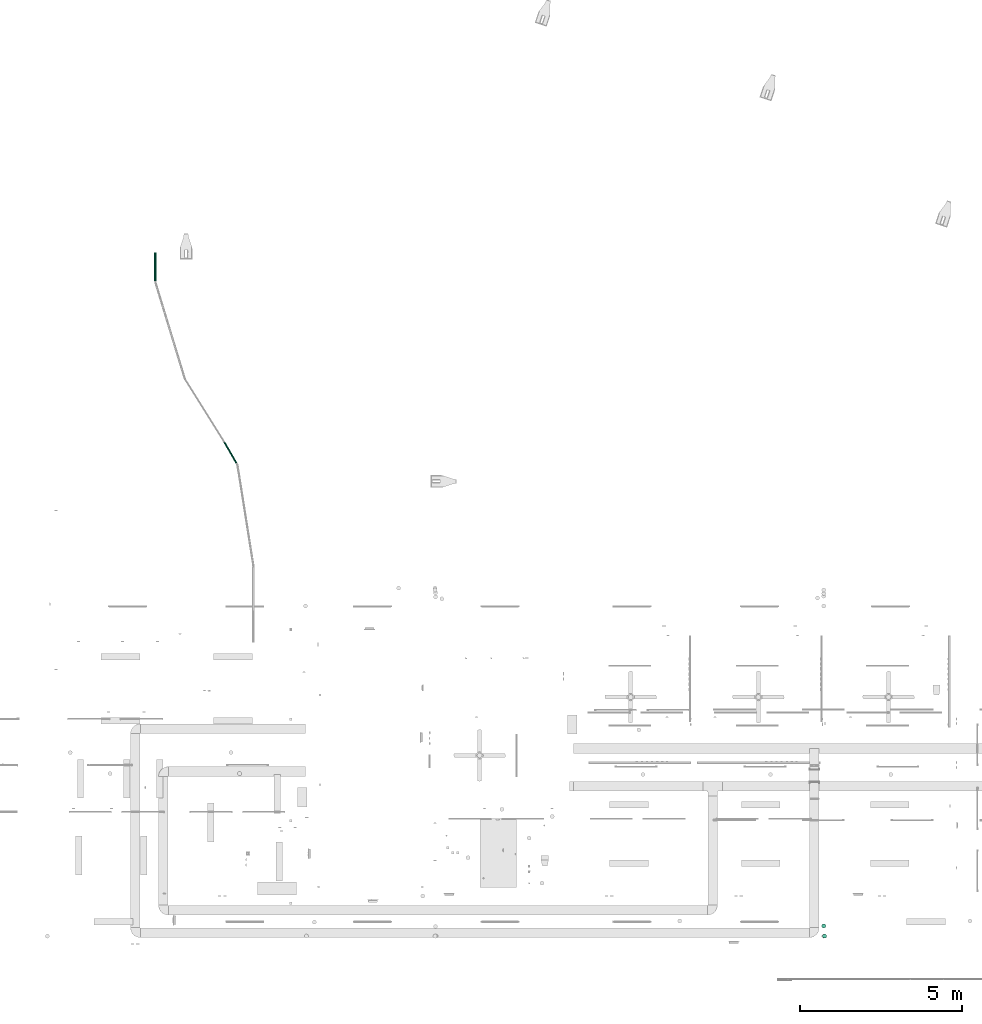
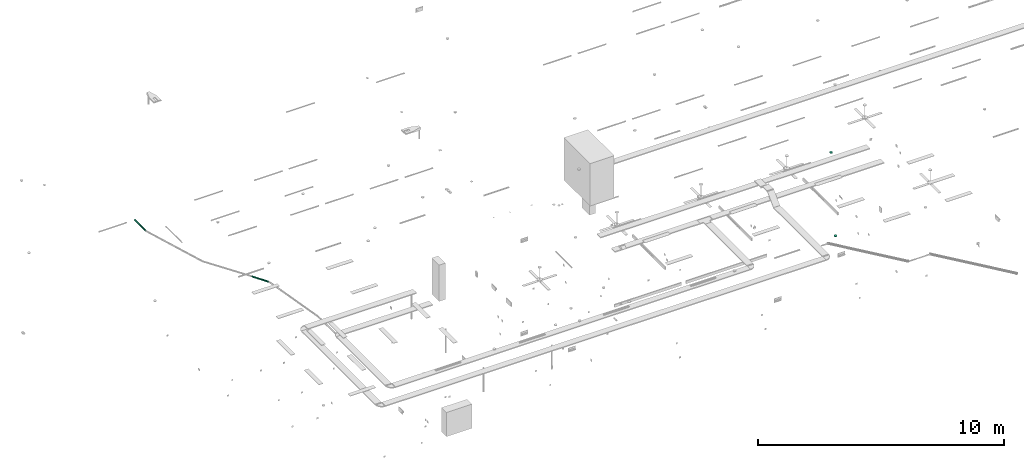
# One storey, part 123 of 153: 2 flow segments, 2 flow terminals.
"""IFC2X3 building model written with IfcOpenShell, lengths in metres."""

import ifcopenshell
import ifcopenshell.guid

model = None  # the IFC model being written
_history = None  # IfcOwnerHistory: only IFC2X3 demands one
_inside = {}  # id of a spatial element -> (the spatial element, [elements in it])
_under = {}  # id of a project, library or spatial element -> (it, [spatial elements below it])
_declared = {}  # id of a project -> (the project, [libraries it declares])
_typed = {}  # id of a type object -> (the type object, [elements of that type])
_made_of = {}  # id of a material, layer set ... -> (it, [elements and type objects made of it])


def new_model(schema):
    """Start an empty IFC model of exactly this schema.

    Asked for "IFC4X3", IfcOpenShell would pick the latest addendum, in which some entities
    have other attributes; the version numbers below select the first issue.
    IFC2X3 requires an IfcOwnerHistory on every rooted entity: one is made here for all.
    """
    global model, _history
    if schema == "IFC4X3":
        model = ifcopenshell.file(schema_version=(4, 3, 0, 0))
    else:
        model = ifcopenshell.file(schema=schema)
    _inside.clear()
    _under.clear()
    _declared.clear()
    _typed.clear()
    _made_of.clear()
    _history = None
    if model.schema == "IFC2X3":
        org = make("IfcOrganization", Name="unknown")
        user = make(
            "IfcPersonAndOrganization",
            ThePerson=make("IfcPerson", FamilyName="unknown"),
            TheOrganization=org,
        )
        app = make(
            "IfcApplication",
            ApplicationDeveloper=org,
            Version="unknown",
            ApplicationFullName="unknown",
            ApplicationIdentifier="unknown",
        )
        _history = make(
            "IfcOwnerHistory",
            OwningUser=user,
            OwningApplication=app,
            ChangeAction="ADDED",
            CreationDate=0,
        )
    return model


def make(cls, **values):
    """One entity of the class cls with the attributes given. An attribute that is None is left unset."""
    return model.create_entity(
        cls, **{name: value for name, value in values.items() if value is not None}
    )


def entity(cls, *values):
    """Any entity or typed value of the class cls, its attributes in the order of the schema. None: left unset."""
    e = model.create_entity(cls)
    for i, value in enumerate(values):
        if value is not None:
            e[i] = value
    return e


def rooted(cls, **values):
    """An entity with a GlobalId (a new one), such as an element, a storey or a relation."""
    return make(cls, GlobalId=ifcopenshell.guid.new(), OwnerHistory=_history, **values)


def si_unit(unit_type, name, prefix=None):
    """IfcSIUnit, for example si_unit("LENGTHUNIT", "METRE", prefix="MILLI")."""
    return make("IfcSIUnit", UnitType=unit_type, Prefix=prefix, Name=name)


def converted_unit(unit_type, name, factor, base, dimensions=None, offset=None):
    """IfcConversionBasedUnit, such as the inch: factor (a typed value) times the base unit."""
    return make(
        "IfcConversionBasedUnit"
        if offset is None
        else "IfcConversionBasedUnitWithOffset",
        ConversionOffset=offset,
        Dimensions=None
        if dimensions is None
        else entity("IfcDimensionalExponents", *dimensions),
        UnitType=unit_type,
        Name=name,
        ConversionFactor=make(
            "IfcMeasureWithUnit", ValueComponent=factor, UnitComponent=base
        ),
    )


def derived_unit(unit_type, elements):
    """IfcDerivedUnit: a product of units, each with its exponent."""
    return make(
        "IfcDerivedUnit",
        Elements=[
            make("IfcDerivedUnitElement", Unit=unit, Exponent=power)
            for unit, power in elements
        ],
        UnitType=unit_type,
    )


def assignment(units):
    """IfcUnitAssignment: the units of a project."""
    return None if units is None else make("IfcUnitAssignment", Units=units)


def point(xyz):
    """IfcCartesianPoint."""
    return None if xyz is None else make("IfcCartesianPoint", Coordinates=xyz)


def direction(xyz):
    """IfcDirection."""
    return None if xyz is None else make("IfcDirection", DirectionRatios=xyz)


def frame(location, z_axis=None, x_axis=None):
    """IfcAxis2Placement3D, a coordinate frame: its origin and axes. An axis left out is left unset."""
    return make(
        "IfcAxis2Placement3D",
        Location=point(location),
        Axis=direction(z_axis),
        RefDirection=direction(x_axis),
    )


def frame_2d(location, x_axis=None):
    """IfcAxis2Placement2D, a coordinate frame in the plane: its origin and x axis."""
    return make(
        "IfcAxis2Placement2D", Location=point(location), RefDirection=direction(x_axis)
    )


def origin():
    """The frame at (0, 0, 0) with its axes left unset."""
    return frame((0.0, 0.0, 0.0))


def origin_2d_with_axis():
    """The frame at (0, 0) in the plane with the x axis (1, 0) written out."""
    return frame_2d((0.0, 0.0), x_axis=(1.0, 0.0))


def place(relative_to, where):
    """IfcLocalPlacement: puts the frame where relative to a parent placement (None: the world)."""
    return make(
        "IfcLocalPlacement", PlacementRelTo=relative_to, RelativePlacement=where
    )


def context(
    kind, dimensions, precision=None, world=None, true_north=None, identifier=None
):
    """IfcGeometricRepresentationContext, for example the 3D "Model" context."""
    return make(
        "IfcGeometricRepresentationContext",
        ContextIdentifier=identifier,
        ContextType=kind,
        CoordinateSpaceDimension=dimensions,
        Precision=precision,
        WorldCoordinateSystem=world,
        TrueNorth=true_north,
    )


def subcontext(parent, identifier, kind, view, scale=None):
    """IfcGeometricRepresentationSubContext, for example "Body" below "Model"."""
    return make(
        "IfcGeometricRepresentationSubContext",
        ContextIdentifier=identifier,
        ContextType=kind,
        ParentContext=parent,
        TargetScale=scale,
        TargetView=view,
    )


def project(units=None, contexts=None):
    """IfcProject with its units and contexts."""
    return rooted(
        "IfcProject",
        Name="project",
        RepresentationContexts=contexts,
        UnitsInContext=assignment(units),
    )


def spatial(cls, under=None, at=None, **own):
    """A site, building, storey or space (cls), placed at a placement, below another one or the project."""
    s = rooted(cls, ObjectPlacement=at, **own)
    if under is not None:
        _under.setdefault(under.id(), (under, []))[1].append(s)
    return s


def profile(cls, at=None, kind="AREA", **sizes):
    """A parametric profile (cls). Its sizes go by their IFC names, for example OverallWidth=200.0."""
    return make(cls, ProfileType=kind, Position=at, **sizes)


def circle(**sizes):
    """IfcCircleProfileDef."""
    return profile("IfcCircleProfileDef", **sizes)


def extrude(swept, where, along, depth):
    """IfcExtrudedAreaSolid: the profile swept, set in the frame where, extruded along a direction by depth."""
    return make(
        "IfcExtrudedAreaSolid",
        SweptArea=swept,
        Position=where,
        ExtrudedDirection=direction(along),
        Depth=depth,
    )


def faces_of(points, faces, orient=None, outer=None):
    """IfcFace entities. A face is a list of loops; a loop is a list of indices into points, from 0.

    orient and outer hold one flag for each loop. By default every Orientation is true, the
    first loop of a face is its IfcFaceOuterBound and the others are IfcFaceBound.
    """
    made = []
    for i, loops in enumerate(faces):
        bounds = []
        for j, loop in enumerate(loops):
            is_outer = j == 0 if outer is None else outer[i][j]
            bounds.append(
                make(
                    "IfcFaceOuterBound" if is_outer else "IfcFaceBound",
                    Bound=make("IfcPolyLoop", Polygon=[points[k] for k in loop]),
                    Orientation=True if orient is None else orient[i][j],
                )
            )
        made.append(make("IfcFace", Bounds=bounds))
    return made


def faceted_brep(points, faces, orient=None, outer=None, voids=None):
    """IfcFacetedBrep: a solid bounded by flat faces; with voids (closed shells), ...WithVoids."""
    shared = [point(p) for p in points]
    hull = make("IfcClosedShell", CfsFaces=faces_of(shared, faces, orient, outer))
    if voids is None:
        return make("IfcFacetedBrep", Outer=hull)
    return make(
        "IfcFacetedBrepWithVoids",
        Outer=hull,
        Voids=[
            make(cls, CfsFaces=faces_of(shared, fs, o, b)) for cls, fs, o, b in voids
        ],
    )


def shape(context_of_items, identifier, shape_type, items):
    """IfcShapeRepresentation: the items that make up one representation, for example the "Body"."""
    return make(
        "IfcShapeRepresentation",
        ContextOfItems=context_of_items,
        RepresentationIdentifier=identifier,
        RepresentationType=shape_type,
        Items=items,
    )


def source(mapping_origin, context_of_items, identifier, shape_type, items):
    """IfcRepresentationMap: a shape defined once, which mapped items show again and again."""
    return make(
        "IfcRepresentationMap",
        MappingOrigin=mapping_origin,
        MappedRepresentation=shape(context_of_items, identifier, shape_type, items),
    )


def transform(
    local_origin,
    x_axis=None,
    y_axis=None,
    z_axis=None,
    scale=None,
    scale2=None,
    scale3=None,
    uniform=True,
):
    """IfcCartesianTransformationOperator3D, or its non-uniform kind. x_axis, y_axis, z_axis: its Axis1, 2, 3."""
    if uniform:
        return make(
            "IfcCartesianTransformationOperator3D",
            Axis1=direction(x_axis),
            Axis2=direction(y_axis),
            LocalOrigin=point(local_origin),
            Scale=scale,
            Axis3=direction(z_axis),
        )
    return make(
        "IfcCartesianTransformationOperator3DnonUniform",
        Axis1=direction(x_axis),
        Axis2=direction(y_axis),
        LocalOrigin=point(local_origin),
        Scale=scale,
        Axis3=direction(z_axis),
        Scale2=scale2,
        Scale3=scale3,
    )


def mapped(mapping_source, mapping_target):
    """IfcMappedItem: shows the shape of a source again, moved by a transform."""
    return make(
        "IfcMappedItem", MappingSource=mapping_source, MappingTarget=mapping_target
    )


def made_of(thing, what):
    """Note that an element or type object is made of a material, layer set ...; save() writes the relation."""
    if what is not None:
        _made_of.setdefault(what.id(), (what, []))[1].append(thing)
    return thing


def type_object(cls, material=None, **own):
    """A type object (cls), such as IfcWallType, which elements share."""
    return made_of(rooted(cls, **own), material)


def type_shapes(of_type, sources):
    """Give a type object the sources (RepresentationMaps) that its elements show as mapped items."""
    of_type.RepresentationMaps = sources


def element(
    cls,
    number,
    at=None,
    inside=None,
    cuts=None,
    type_object=None,
    material=None,
    context=None,
    identifier="Body",
    shape_type=None,
    held_by="IfcProductDefinitionShape",
    body=None,
    shapes=None,
    **own,
):
    """One element of the class cls, such as IfcWall. Its Tag is "e" and its number.

    at: its placement. inside: the storey or other place that contains it. cuts: it is an
    opening in that element (IfcRelVoidsElement). A single representation is given by context,
    identifier, shape_type and body (its items); several are given by shapes. held_by: the class
    of the entity that holds the representations. save() writes the other relations.
    """
    e = rooted(cls, Tag="e%d" % number, ObjectPlacement=at, **own)
    if body is not None:
        shapes = [shape(context, identifier, shape_type, body)]
    if shapes is not None:
        e.Representation = make(held_by, Representations=shapes)
    if inside is not None:
        _inside.setdefault(inside.id(), (inside, []))[1].append(e)
    if cuts is not None:
        rooted(
            "IfcRelVoidsElement", RelatingBuildingElement=cuts, RelatedOpeningElement=e
        )
    if type_object is not None:
        _typed.setdefault(type_object.id(), (type_object, []))[1].append(e)
    return made_of(e, material)


def aggregate(whole, parts):
    """IfcRelAggregates: a whole, such as a stair, and the parts it consists of."""
    return rooted("IfcRelAggregates", RelatingObject=whole, RelatedObjects=parts)


def save(model, path):
    """Write the relations noted so far, then the file.

    IfcRelAggregates (storeys below a building ...), IfcRelContainedInSpatialStructure (elements
    in a storey), IfcRelDefinesByType, IfcRelAssociatesMaterial and IfcRelDeclares: one each for
    every whole, place, type object, material and project.
    """
    for whole, parts in _under.values():
        aggregate(whole, parts)
    for where, things in _inside.values():
        rooted(
            "IfcRelContainedInSpatialStructure",
            RelatedElements=things,
            RelatingStructure=where,
        )
    for kind, things in _typed.values():
        rooted("IfcRelDefinesByType", RelatedObjects=things, RelatingType=kind)
    for what, things in _made_of.values():
        rooted("IfcRelAssociatesMaterial", RelatedObjects=things, RelatingMaterial=what)
    for by, libraries in _declared.values():
        rooted("IfcRelDeclares", RelatingContext=by, RelatedDefinitions=libraries)
    model.write(path)


model = new_model("IFC2X3")

# Units and contexts
model_context = context("Model", 3, precision=1e-05, world=origin(), true_north=direction((6.12303176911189e-17, 1.0)))
body_context = subcontext(model_context, "Body", "Model", "MODEL_VIEW")
ifc_project = project(units=[si_unit("LENGTHUNIT", "METRE"), si_unit("AREAUNIT", "SQUARE_METRE"), si_unit("VOLUMEUNIT", "CUBIC_METRE"), converted_unit("PLANEANGLEUNIT", "DEGREE", entity("IfcRatioMeasure", 0.0174532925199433), si_unit("PLANEANGLEUNIT", "RADIAN"), dimensions=[0, 0, 0, 0, 0, 0, 0]), si_unit("MASSUNIT", "GRAM", prefix="KILO"), derived_unit("MASSDENSITYUNIT", [(si_unit("MASSUNIT", "GRAM", prefix="KILO"), 1), (si_unit("LENGTHUNIT", "METRE"), -3)]), si_unit("TIMEUNIT", "SECOND"), si_unit("FREQUENCYUNIT", "HERTZ"), si_unit("THERMODYNAMICTEMPERATUREUNIT", "DEGREE_CELSIUS"), derived_unit("THERMALTRANSMITTANCEUNIT", [(si_unit("MASSUNIT", "GRAM", prefix="KILO"), 1), (si_unit("THERMODYNAMICTEMPERATUREUNIT", "KELVIN"), -1), (si_unit("TIMEUNIT", "SECOND"), -3)]), derived_unit("VOLUMETRICFLOWRATEUNIT", [(si_unit("LENGTHUNIT", "METRE"), 3), (si_unit("TIMEUNIT", "SECOND"), -1)]), si_unit("ELECTRICCURRENTUNIT", "AMPERE"), si_unit("ELECTRICVOLTAGEUNIT", "VOLT"), si_unit("POWERUNIT", "WATT"), si_unit("FORCEUNIT", "NEWTON"), si_unit("ILLUMINANCEUNIT", "LUX"), si_unit("LUMINOUSFLUXUNIT", "LUMEN"), si_unit("LUMINOUSINTENSITYUNIT", "CANDELA"), derived_unit("USERDEFINED", [(si_unit("MASSUNIT", "GRAM", prefix="KILO"), -1), (si_unit("LENGTHUNIT", "METRE"), -2), (si_unit("TIMEUNIT", "SECOND"), 3), (si_unit("LUMINOUSFLUXUNIT", "LUMEN"), 1)]), derived_unit("LINEARVELOCITYUNIT", [(si_unit("LENGTHUNIT", "METRE"), 1), (si_unit("TIMEUNIT", "SECOND"), -1)]), si_unit("PRESSUREUNIT", "PASCAL"), derived_unit("USERDEFINED", [(si_unit("LENGTHUNIT", "METRE"), -2), (si_unit("MASSUNIT", "GRAM", prefix="KILO"), 1), (si_unit("TIMEUNIT", "SECOND"), -2)])], contexts=[model_context])

# Site, building, storey
site_placement = place(None, origin())
site = spatial("IfcSite", under=ifc_project, at=site_placement, Name="Default", CompositionType="ELEMENT")
building_placement = place(site_placement, origin())
building = spatial("IfcBuilding", under=site, at=building_placement, CompositionType="ELEMENT")
storey_placement = place(building_placement, frame((0.0, 0.0, -4.62)))
storey = spatial("IfcBuildingStorey", under=building, at=storey_placement, Name="S02", CompositionType="ELEMENT", Elevation=-4.62)

# Flow terminals
light_fixture_type = type_object("IfcLightFixtureType", Name="Détecteur 360°", PredefinedType="NOTDEFINED")
shared_shape = source(origin(), body_context, "Body", "Brep", [
    faceted_brep([(0.0, -0.0397165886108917, 0.0531256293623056), (0.0, -0.034524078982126, 0.0563702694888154), (-0.0175153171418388, -0.0435914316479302, 0.0478512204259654), (-0.0194029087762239, -0.000878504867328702, 0.0644483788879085), (0.0, 0.0, 0.0669999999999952), (0.0, 0.00603476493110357, 0.0659648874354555), (-0.0174057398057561, -0.0159851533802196, 0.0630502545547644), (-0.0366619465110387, -0.0127227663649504, 0.0549213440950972), (-0.026998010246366, -0.0195753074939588, 0.0584711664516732), (-0.0202403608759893, -0.0335607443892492, 0.054639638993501), (-0.0359767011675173, -0.0348394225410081, 0.0444249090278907), (-0.0276843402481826, -0.0401006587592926, 0.0459804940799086), (-0.0133088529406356, -0.0517577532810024, 0.0400582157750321), (-0.0172617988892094, -0.0486391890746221, 0.042533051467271), (-0.0256912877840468, -0.0533485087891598, 0.0299999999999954), (-0.0462941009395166, -0.0369183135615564, 0.0299999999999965), (0.0, -0.0241390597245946, 0.0628595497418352), (-0.0186245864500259, -0.0267295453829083, 0.0589100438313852), (-0.0139070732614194, -0.0374370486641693, 0.0540817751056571), (0.0, 0.0449090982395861, 0.049880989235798), (-0.0172618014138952, 0.0486391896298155, 0.0425330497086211), (0.0, 0.0397165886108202, 0.0531256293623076), (-0.0186245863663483, 0.0267295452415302, 0.0589100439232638), (-0.0202403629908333, 0.0335607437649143, 0.054639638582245), (-0.0353547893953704, 0.0284533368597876, 0.0494330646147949), (0.0, 0.0120695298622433, 0.0649297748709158), (-0.0249385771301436, 0.0204731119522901, 0.0590841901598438), (-0.0191783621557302, 0.0150189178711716, 0.062775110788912), (-0.0465404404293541, -0.0196510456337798, 0.0438984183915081), (-0.052010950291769, -0.0250471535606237, 0.029999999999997), (-0.0453471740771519, -0.0286501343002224, 0.0397747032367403), (-0.0365036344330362, -0.0226255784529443, 0.0516441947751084), (-0.0175153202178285, 0.0435914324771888, 0.0478512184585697), (-0.0359926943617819, 0.0451334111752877, 0.0299999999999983), (-0.0276843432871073, 0.0401006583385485, 0.0459804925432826), (-0.00849704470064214, -0.0572729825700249, 0.0299999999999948), (0.0, -0.0592123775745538, 0.0299999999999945), (0.0, -0.0545512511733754, 0.0364787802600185), (0.0, -0.049890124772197, 0.0429575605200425), (-0.0169940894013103, -0.055333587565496, 0.0299999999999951), (-0.0359767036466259, 0.0348394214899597, 0.0444249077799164), (-0.025691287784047, 0.0533485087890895, 0.0299999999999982), (-0.0308419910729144, 0.0492409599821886, 0.0299999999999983), (-0.0130265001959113, 0.0514867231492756, 0.040526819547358), (-0.0169940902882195, 0.0553335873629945, 0.029999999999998), (0.0, 0.0498901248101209, 0.0429575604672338), (-0.0353547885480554, -0.0284533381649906, 0.0494330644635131), (0.0, 0.0181042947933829, 0.0638946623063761), (-0.0473669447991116, -0.00128092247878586, 0.0474310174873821), (-0.0485435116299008, -0.00908961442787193, 0.0452357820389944), (-0.0366597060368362, -0.0032867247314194, 0.0563153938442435), (-0.0226425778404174, -0.0107553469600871, 0.0624973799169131), (0.0, -0.00603476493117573, 0.0659648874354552), (0.0, 0.0293315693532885, 0.0596149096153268), (-0.0139070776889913, 0.0374370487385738, 0.0540817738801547), (-0.0449600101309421, 0.018422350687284, 0.0461366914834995), (-0.0453471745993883, 0.0286501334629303, 0.0397747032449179), (-0.0476906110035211, 0.00670602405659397, 0.0466053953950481), (-0.0577277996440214, 0.0131759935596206, 0.0299999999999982), (-0.0577277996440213, 0.00658799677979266, 0.029999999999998), (-0.0577277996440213, 0.0, 0.0299999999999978), (0.0, -0.0449090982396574, 0.0498809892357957), (-0.0308419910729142, -0.049240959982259, 0.0299999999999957), (-0.0359926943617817, -0.0451334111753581, 0.029999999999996), (0.0, 0.0345240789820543, 0.0563702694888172), (-0.0411433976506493, 0.0410258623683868, 0.0299999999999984), (-0.0462941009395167, 0.0369183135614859, 0.0299999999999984), (-0.0491525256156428, -0.03098273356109, 0.0299999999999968), (-0.0577277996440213, -0.0131759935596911, 0.0299999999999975), (0.0, -0.018104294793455, 0.0638946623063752), (-0.0377433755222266, 0.0044838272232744, 0.0554913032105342), (-0.0577277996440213, -0.00658799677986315, 0.0299999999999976), (-0.0385149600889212, 0.0124844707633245, 0.0536578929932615), (-0.0491525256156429, 0.0309827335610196, 0.0299999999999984), (-0.0548693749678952, 0.0191115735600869, 0.0299999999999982), (0.0, 0.0241390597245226, 0.0628595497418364), (-0.014625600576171, 0.0100436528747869, 0.0649170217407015), (-0.0271766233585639, 0.00920278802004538, 0.0609170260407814), (0.0, -0.0120695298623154, 0.0649297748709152), (-0.0520109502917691, 0.0250471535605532, 0.0299999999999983), (-0.0411433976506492, -0.0410258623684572, 0.0299999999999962), (-0.0548693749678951, -0.0191115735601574, 0.0299999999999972), (0.0, -0.0293315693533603, 0.0596149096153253), (0.0, 0.0545512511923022, 0.0364787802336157), (0.0, 0.0592123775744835, 0.0299999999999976), (-0.00849704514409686, 0.057272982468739, 0.0299999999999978), (-0.0127455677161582, 0.0563032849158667, 0.0299999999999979), (-0.0213426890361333, 0.054341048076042, 0.0299999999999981), (0.0175153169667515, 0.0435914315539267, 0.0478512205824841), (0.0194029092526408, 0.000878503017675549, 0.0644483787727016), (0.017405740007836, 0.0159851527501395, 0.0630502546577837), (0.0366619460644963, 0.012722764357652, 0.0549213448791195), (0.0269980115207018, 0.0195753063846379, 0.0584711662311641), (0.0202403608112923, 0.0335607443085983, 0.0546396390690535), (0.0359767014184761, 0.0348394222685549, 0.0444249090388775), (0.0276843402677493, 0.0401006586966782, 0.0459804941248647), (0.0133088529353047, 0.0517577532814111, 0.0400582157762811), (0.0172617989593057, 0.0486391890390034, 0.0425330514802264), (0.0256912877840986, 0.0533485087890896, 0.0299999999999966), (0.0462941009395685, 0.0369183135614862, 0.0299999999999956), (0.00849704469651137, 0.0572729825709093, 0.0299999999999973), (0.0169940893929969, 0.0553335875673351, 0.029999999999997), (0.0172617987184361, -0.0486391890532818, 0.0425330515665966), (0.025691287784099, -0.0533485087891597, 0.0299999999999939), (0.0308419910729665, -0.0492409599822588, 0.0299999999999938), (0.0175153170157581, -0.0435914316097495, 0.0478512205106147), (0.0186245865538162, -0.0267295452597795, 0.0589100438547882), (0.0202403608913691, -0.03356074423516, 0.0546396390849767), (0.0353547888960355, -0.0284533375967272, 0.0494330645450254), (0.0249385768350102, -0.0204731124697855, 0.0590841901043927), (0.0191783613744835, -0.0150189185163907, 0.062775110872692), (0.0465404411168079, 0.0196510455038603, 0.0438984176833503), (0.0577277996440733, 0.0131759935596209, 0.0299999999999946), (0.0548693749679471, 0.0191115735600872, 0.0299999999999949), (0.0520109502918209, 0.0250471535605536, 0.0299999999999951), (0.0365036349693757, 0.0226255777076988, 0.0516441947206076), (0.0186245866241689, 0.0267295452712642, 0.0589100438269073), (0.0359926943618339, -0.0451334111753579, 0.0299999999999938), (0.0276843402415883, -0.0401006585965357, 0.0459804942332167), (0.0139070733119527, 0.0374370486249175, 0.0540817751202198), (0.0359767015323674, -0.0348394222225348, 0.044424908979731), (0.0226425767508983, 0.0107553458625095, 0.0624973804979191), (0.0169940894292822, -0.0553335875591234, 0.0299999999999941), (0.0130264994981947, -0.0514867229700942, 0.0405268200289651), (0.0453471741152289, 0.0286501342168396, 0.039774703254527), (0.0353547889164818, 0.0284533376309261, 0.0494330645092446), (0.0473669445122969, 0.00128092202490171, 0.0474310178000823), (0.0485435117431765, 0.00908961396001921, 0.0452357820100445), (0.0366597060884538, 0.00328672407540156, 0.0563153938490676), (0.0139070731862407, -0.0374370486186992, 0.0540817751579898), (0.0449600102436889, -0.018422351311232, 0.0461366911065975), (0.0453471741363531, -0.0286501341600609, 0.039774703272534), (0.0476906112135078, -0.00670602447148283, 0.046605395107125), (0.0577277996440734, -0.0131759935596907, 0.0299999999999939), (0.0577277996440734, -0.00658799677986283, 0.0299999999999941), (0.0577277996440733, 0.0, 0.0299999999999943), (0.0308419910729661, 0.0492409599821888, 0.0299999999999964), (0.0359926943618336, 0.0451334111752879, 0.0299999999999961), (0.0411433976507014, -0.041025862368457, 0.0299999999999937), (0.0462941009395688, -0.0369183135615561, 0.0299999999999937), (0.0491525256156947, 0.0309827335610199, 0.0299999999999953), (0.037743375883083, -0.00448382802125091, 0.0554913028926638), (0.0577277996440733, 0.00658799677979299, 0.0299999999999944), (0.0385149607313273, -0.0124844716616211, 0.0536578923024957), (0.049152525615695, -0.0309827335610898, 0.0299999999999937), (0.0548693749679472, -0.0191115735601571, 0.0299999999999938), (0.0146256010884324, -0.0100436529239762, 0.0649170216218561), (0.0271766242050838, -0.00920278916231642, 0.0609170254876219), (0.0520109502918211, -0.0250471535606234, 0.0299999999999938), (0.041143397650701, 0.0410258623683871, 0.0299999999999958), (0.00849704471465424, -0.0572729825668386, 0.0299999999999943), (0.0127455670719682, -0.056303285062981, 0.0299999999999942), (0.0213426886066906, -0.0543410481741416, 0.029999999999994), (0.0, 0.0, 0.0299999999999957)], [[[0, 1, 2]], [[3, 4, 5]], [[6, 7, 8]], [[9, 10, 11]], [[12, 13, 14]], [[10, 15, 11]], [[9, 16, 17]], [[18, 9, 11]], [[19, 20, 21]], [[22, 23, 24]], [[25, 26, 27]], [[28, 29, 30]], [[8, 31, 17]], [[32, 33, 34]], [[35, 36, 37, 38, 39]], [[23, 40, 24]], [[20, 41, 42]], [[19, 43, 20]], [[44, 43, 45]], [[20, 32, 21]], [[30, 10, 46]], [[22, 26, 47]], [[48, 49, 50]], [[3, 51, 52]], [[53, 54, 23]], [[55, 24, 56]], [[57, 58, 59, 60]], [[13, 61, 0]], [[13, 0, 2]], [[2, 62, 13]], [[18, 2, 1]], [[2, 11, 63]], [[32, 64, 21]], [[32, 42, 33]], [[34, 33, 65, 66]], [[20, 42, 32]], [[54, 32, 34]], [[28, 30, 31]], [[10, 67, 15]], [[49, 68, 28]], [[8, 17, 69]], [[7, 6, 51]], [[28, 31, 7]], [[57, 48, 70]], [[58, 57, 55]], [[48, 71, 49]], [[70, 48, 50]], [[3, 50, 51]], [[55, 26, 24]], [[72, 57, 70]], [[26, 55, 72]], [[56, 40, 73]], [[56, 74, 55]], [[47, 75, 22]], [[52, 4, 3]], [[7, 50, 49]], [[5, 76, 3]], [[70, 3, 77]], [[51, 78, 52]], [[26, 25, 47]], [[76, 25, 27]], [[23, 22, 75]], [[26, 22, 24]], [[53, 64, 54]], [[23, 34, 40]], [[66, 40, 34]], [[40, 66, 73]], [[56, 73, 79, 74]], [[72, 27, 26]], [[40, 56, 24]], [[23, 75, 53]], [[69, 17, 16]], [[78, 6, 69]], [[46, 10, 9]], [[46, 9, 17]], [[50, 7, 51]], [[30, 29, 67]], [[80, 63, 11, 15]], [[28, 68, 81, 29]], [[10, 30, 67]], [[30, 46, 31]], [[82, 18, 1]], [[82, 16, 9]], [[28, 7, 49]], [[12, 39, 38]], [[61, 13, 12]], [[83, 84, 85, 86, 44, 45]], [[43, 41, 20]], [[44, 87, 41, 43]], [[32, 54, 64]], [[23, 54, 34]], [[9, 18, 82]], [[2, 18, 11]], [[39, 12, 14]], [[38, 61, 12]], [[62, 2, 63]], [[62, 14, 13]], [[17, 31, 46]], [[7, 31, 8]], [[48, 60, 71]], [[71, 68, 49]], [[60, 48, 57]], [[3, 70, 50]], [[72, 70, 77]], [[72, 77, 27]], [[55, 57, 72]], [[74, 58, 55]], [[76, 27, 77]], [[3, 76, 77]], [[25, 76, 5]], [[69, 6, 8]], [[78, 51, 6]], [[45, 43, 19]], [[21, 64, 88]], [[89, 4, 52]], [[90, 91, 92]], [[93, 94, 95]], [[96, 97, 98]], [[94, 99, 95]], [[100, 84, 83, 45, 101]], [[102, 103, 104]], [[102, 105, 0]], [[106, 107, 108]], [[78, 109, 110]], [[111, 112, 113, 114]], [[92, 115, 116]], [[105, 117, 118]], [[119, 93, 95]], [[107, 120, 108]], [[89, 121, 5]], [[122, 123, 38]], [[61, 123, 102]], [[93, 75, 116]], [[124, 94, 125]], [[106, 109, 69]], [[126, 127, 128]], [[61, 102, 0]], [[82, 129, 107]], [[130, 108, 131]], [[132, 133, 134, 135]], [[97, 19, 21]], [[97, 21, 88]], [[88, 136, 97]], [[119, 88, 64]], [[88, 95, 137]], [[105, 1, 0]], [[105, 104, 117]], [[118, 117, 138, 139]], [[102, 104, 105]], [[129, 105, 118]], [[111, 124, 115]], [[94, 140, 99]], [[127, 112, 111]], [[92, 116, 47]], [[91, 90, 121]], [[111, 115, 91]], [[132, 126, 141]], [[133, 132, 130]], [[126, 142, 127]], [[141, 126, 128]], [[89, 128, 121]], [[130, 109, 108]], [[143, 132, 141]], [[109, 130, 143]], [[131, 120, 144]], [[131, 145, 130]], [[69, 16, 106]], [[5, 4, 89]], [[91, 128, 127]], [[52, 146, 89]], [[141, 89, 147]], [[121, 25, 5]], [[109, 78, 69]], [[146, 78, 110]], [[107, 106, 16]], [[109, 106, 108]], [[82, 1, 129]], [[107, 118, 120]], [[139, 120, 118]], [[120, 139, 144]], [[131, 144, 148, 145]], [[143, 110, 109]], [[120, 131, 108]], [[107, 16, 82]], [[47, 116, 75]], [[25, 90, 47]], [[125, 94, 93]], [[125, 93, 116]], [[128, 91, 121]], [[124, 114, 140]], [[149, 137, 95, 99]], [[111, 114, 124]], [[94, 124, 140]], [[124, 125, 115]], [[53, 119, 64]], [[53, 75, 93]], [[111, 91, 127]], [[96, 101, 45]], [[19, 97, 96]], [[37, 36, 150, 151, 122, 38]], [[123, 103, 102]], [[122, 152, 103, 123]], [[105, 129, 1]], [[107, 129, 118]], [[93, 119, 53]], [[88, 119, 95]], [[101, 96, 98]], [[45, 19, 96]], [[136, 88, 137]], [[136, 98, 97]], [[116, 115, 125]], [[91, 115, 92]], [[126, 135, 142]], [[142, 112, 127]], [[135, 126, 132]], [[89, 141, 128]], [[143, 141, 147]], [[143, 147, 110]], [[130, 132, 143]], [[145, 133, 130]], [[146, 110, 147]], [[89, 146, 147]], [[78, 146, 52]], [[47, 90, 92]], [[25, 121, 90]], [[38, 123, 61]], [[153, 66, 65]], [[153, 65, 33]], [[153, 33, 42]], [[153, 42, 41]], [[153, 41, 87]], [[153, 73, 66]], [[153, 79, 73]], [[153, 74, 79]], [[153, 58, 74]], [[153, 87, 44]], [[153, 44, 86]], [[153, 86, 85]], [[153, 85, 84]], [[153, 84, 100]], [[153, 59, 58]], [[153, 60, 59]], [[153, 71, 60]], [[153, 68, 71]], [[153, 81, 68]], [[153, 29, 81]], [[153, 67, 29]], [[153, 15, 67]], [[153, 80, 15]], [[153, 63, 80]], [[153, 62, 63]], [[153, 14, 62]], [[153, 39, 14]], [[153, 35, 39]], [[153, 36, 35]], [[153, 100, 101]], [[153, 101, 98]], [[153, 98, 136]], [[153, 136, 137]], [[153, 137, 149]], [[153, 149, 99]], [[153, 99, 140]], [[153, 140, 114]], [[153, 114, 113]], [[153, 113, 112]], [[153, 112, 142]], [[153, 150, 36]], [[153, 151, 150]], [[153, 122, 151]], [[153, 152, 122]], [[153, 103, 152]], [[153, 104, 103]], [[153, 117, 104]], [[153, 138, 117]], [[153, 139, 138]], [[153, 144, 139]], [[153, 148, 144]], [[153, 145, 148]], [[153, 133, 145]], [[153, 142, 135]], [[153, 135, 134]], [[153, 134, 133]]]),
    faceted_brep([(0.0165644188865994, -0.0618192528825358, 0.029999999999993), (0.0320000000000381, -0.0554256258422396, 0.0299999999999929), (0.0452548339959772, -0.0452548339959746, 0.0299999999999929), (0.0554256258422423, -0.0320000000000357, 0.029999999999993), (0.0618192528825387, -0.016564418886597, 0.0299999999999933), (0.0640000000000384, 0.0, 0.0299999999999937), (0.0618192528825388, 0.016564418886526, 0.0299999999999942), (0.0554256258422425, 0.0319999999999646, 0.0299999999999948), (0.0452548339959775, 0.0452548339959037, 0.0299999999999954), (0.0320000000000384, 0.0554256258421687, 0.0299999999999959), (0.0165644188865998, 0.061819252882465, 0.0299999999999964), (0.0, 0.0639999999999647, 0.0299999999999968), (-0.0165644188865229, 0.061819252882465, 0.0299999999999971), (-0.0319999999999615, 0.0554256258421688, 0.0299999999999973), (-0.0452548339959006, 0.0452548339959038, 0.0299999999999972), (-0.0554256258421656, 0.0319999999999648, 0.0299999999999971), (-0.0618192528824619, 0.0165644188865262, 0.0299999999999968), (-0.0639999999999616, 0.0, 0.0299999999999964), (-0.061819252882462, -0.0165644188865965, 0.0299999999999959), (-0.0554256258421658, -0.0320000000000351, 0.0299999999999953), (-0.0452548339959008, -0.0452548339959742, 0.0299999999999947), (-0.0319999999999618, -0.0554256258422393, 0.0299999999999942), (-0.0165644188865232, -0.0618192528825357, 0.0299999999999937), (0.0, -0.0640000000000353, 0.0299999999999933), (0.0165644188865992, 0.0618192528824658, 0.0), (0.0320000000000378, 0.0554256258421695, 0.0), (0.0452548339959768, 0.0452548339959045, 0.0), (0.0554256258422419, 0.0319999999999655, 0.0), (0.0618192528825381, 0.0165644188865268, 0.0), (0.0640000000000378, 0.0, 0.0), (0.061819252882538, -0.0165644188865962, 0.0), (0.0554256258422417, -0.0320000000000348, 0.0), (0.0452548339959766, -0.0452548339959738, 0.0), (0.0320000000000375, -0.0554256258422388, 0.0), (0.0165644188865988, -0.061819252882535, 0.0), (0.0, -0.0640000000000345, 0.0), (-0.0165644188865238, -0.0618192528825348, 0.0), (-0.0319999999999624, -0.0554256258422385, 0.0), (-0.0452548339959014, -0.0452548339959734, 0.0), (-0.0554256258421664, -0.0320000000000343, 0.0), (-0.0618192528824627, -0.0165644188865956, 0.0), (-0.0639999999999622, 0.0, 0.0), (-0.0618192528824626, 0.016564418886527, 0.0), (-0.0554256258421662, 0.0319999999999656, 0.0), (-0.0452548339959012, 0.0452548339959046, 0.0), (-0.0319999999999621, 0.0554256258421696, 0.0), (-0.0165644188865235, 0.0618192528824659, 0.0), (0.0, 0.0639999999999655, 0.0)], [[[0, 1, 2, 3, 4, 5, 6, 7, 8, 9, 10, 11, 12, 13, 14, 15, 16, 17, 18, 19, 20, 21, 22, 23]], [[24, 25, 26, 27, 28, 29, 30, 31, 32, 33, 34, 35, 36, 37, 38, 39, 40, 41, 42, 43, 44, 45, 46, 47]], [[40, 18, 17, 41]], [[39, 19, 18, 40]], [[21, 20, 38, 37]], [[39, 38, 20, 19]], [[22, 21, 37, 36]], [[23, 22, 36, 35]], [[34, 0, 23, 35]], [[33, 1, 0, 34]], [[3, 2, 32, 31]], [[33, 32, 2, 1]], [[4, 3, 31, 30]], [[5, 4, 30, 29]], [[28, 6, 5, 29]], [[27, 7, 6, 28]], [[9, 8, 26, 25]], [[27, 26, 8, 7]], [[10, 9, 25, 24]], [[11, 10, 24, 47]], [[46, 12, 11, 47]], [[45, 13, 12, 46]], [[42, 41, 17, 16]], [[44, 14, 13, 45]], [[43, 15, 14, 44]], [[43, 42, 16, 15]]]),
])
type_shapes(light_fixture_type, [shared_shape])
for number, where, z_axis, x_axis in (
    (1, (57.5154544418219, -194.497539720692, 4.62), (0.0, 0.0, -1.0), (1.0, 0.0, 0.0)),
    (2, (57.489877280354, -194.179738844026, 8.569), (0.0, 0.0, -1.0), (1.0, 0.0, 0.0)),
):
    element("IfcFlowTerminal", number, at=place(storey_placement, frame(where, z_axis=z_axis, x_axis=x_axis)), inside=storey, type_object=light_fixture_type, Name="INT - Détecteur 360°:Détecteur 360°", ObjectType="INT - Détecteur 360°:Détecteur 360°", context=body_context, shape_type="MappedRepresentation", body=[
        mapped(shared_shape, transform((0.0, 0.0, 0.0), scale=1.0)),
    ])

# Flow segments
cable_carrier_segment_type = type_object("IfcCableCarrierSegmentType", Name="Conduit without Fittings:Conduit", PredefinedType="NOTDEFINED")
flow_segment_1_placement = place(building_placement, frame((0.0, 0.0, -4.62)))
element("IfcFlowSegment", 3, at=flow_segment_1_placement, inside=storey, type_object=cable_carrier_segment_type, Name="Conduit without Fittings:Conduit", ObjectType="Conduit without Fittings:Conduit", context=body_context, shape_type="SweptSolid", body=[
    extrude(circle(Radius=0.0279, at=origin_2d_with_axis()), frame((39.3592139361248, -179.896781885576, -0.172100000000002), z_axis=(-0.500000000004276, 0.86602540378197, 0.0), x_axis=(0.86602540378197, 0.500000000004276, 0.0)), (0.0, 0.0, 1.0), 0.759407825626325),
])
flow_segment_2_placement = place(building_placement, frame((0.0, 0.0, -4.62)))
element("IfcFlowSegment", 4, at=flow_segment_2_placement, inside=storey, type_object=cable_carrier_segment_type, Name="Conduit without Fittings:Conduit", ObjectType="Conduit without Fittings:Conduit", context=body_context, shape_type="SweptSolid", body=[
    extrude(circle(Radius=0.0279, at=origin_2d_with_axis()), frame((36.8520055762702, -174.268942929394, -0.172099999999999), z_axis=(0.0, 1.0, 0.0), x_axis=(1.0, 0.0, 0.0)), (0.0, 0.0, 1.0), 0.879767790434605),
])

save(model, "model.ifc")
